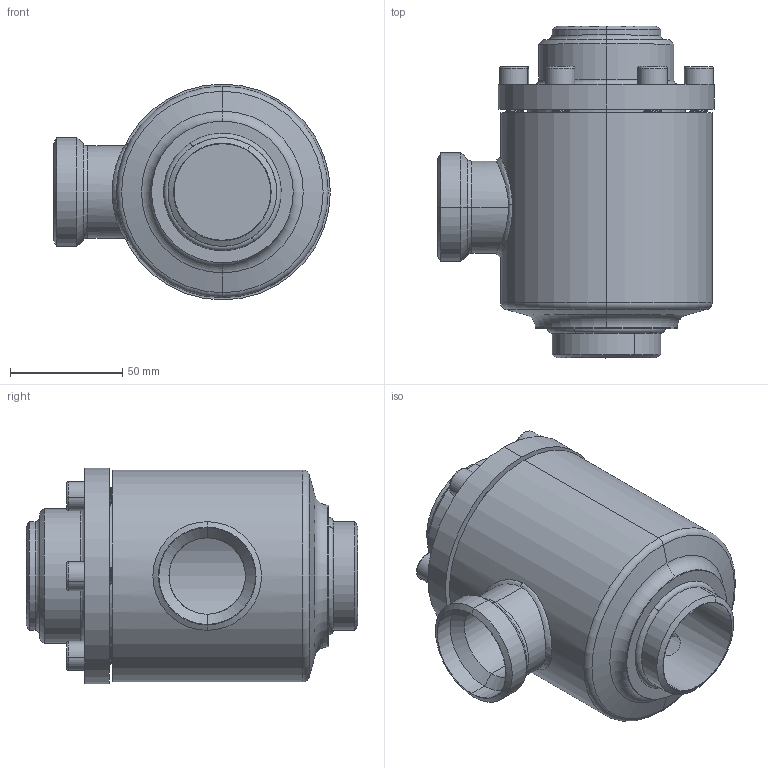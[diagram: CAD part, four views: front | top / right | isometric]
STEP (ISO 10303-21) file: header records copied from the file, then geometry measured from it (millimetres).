
FILE_DESCRIPTION (( 'STEP AP214' ), '1' );
FILE_NAME ('TR47000C14-DN40_R1_PS40.STEP', '2005-08-10T05:25:36', ( 'Herr Grams' ), ( 'AWP GmbH' ), 'SwSTEP 2.0', 'SolidWorks 2002296', '' );
FILE_SCHEMA (( 'AUTOMOTIVE_DESIGN' ));
Length unit declared in the file: millimetre
Products named in the file (10): TR47000C14-DN40_R1_PS40; Deckel47000E14_DN40_PS40_R1_Standard; Führungsring47050-11-DN15-40_Standard; Geh-kpl47000E14-DN40_PS40_R1_Standard; Geh47000E14_DN32-40_PS40_R1_Standard; RohrstutzA47000E14-DN40_PS40_R1_Standard; Stutzenteil47000E14_DN40_PS40_R1_Standard; Kehlnaht13-2_Standard; bead14-3_Standard; Zylinderschraube-DIN912-M 8x22_M 8x 22
Assembly tree (14 placements, depth 3):
  TR47000C14-DN40_R1_PS40
    Zylinderschraube-DIN912-M 8x22_M 8x 22  x6
    Geh-kpl47000E14-DN40_PS40_R1_Standard
      Stutzenteil47000E14_DN40_PS40_R1_Standard
      bead14-3_Standard
      Geh47000E14_DN32-40_PS40_R1_Standard
      RohrstutzA47000E14-DN40_PS40_R1_Standard
      Kehlnaht13-2_Standard
    Führungsring47050-11-DN15-40_Standard
    Deckel47000E14_DN40_PS40_R1_Standard
Bounding box: 123 x 147.5 x 96 mm (x, y, z)
Volume: 463227.4 mm3; surface area: 127950.4 mm2
Topology: 13 solids, 13 shells, 465 faces, 1196 edges, 776 vertices
Faces by surface type: cylinder 298, plane 89, cone 38, torus 26, bspline 14
Entity records: 22302 total; most frequent: CARTESIAN_POINT 16933, DIRECTION 940, ORIENTED_EDGE 932, EDGE_CURVE 466, AXIS2_PLACEMENT_3D 389, VERTEX_POINT 296, EDGE_LOOP 242, ADVANCED_FACE 195
